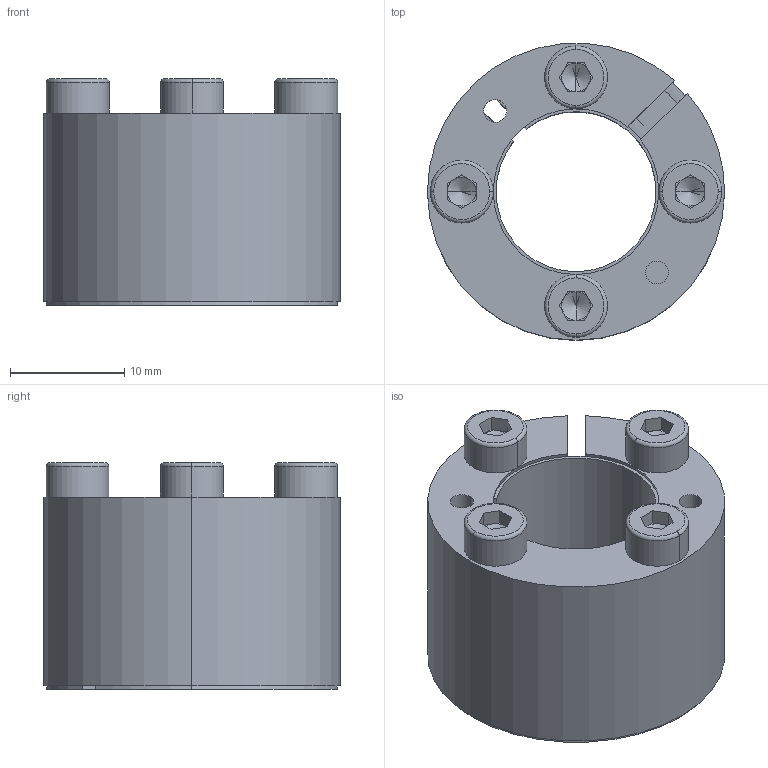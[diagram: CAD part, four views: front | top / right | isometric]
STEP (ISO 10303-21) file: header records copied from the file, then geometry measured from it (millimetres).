
FILE_DESCRIPTION (( 'STEP AP214' ), '1' );
FILE_NAME ('CONEX-K-14x26.step', '2013-04-06T13:20:30', ( 'Pc' ), ( '' ), 'SwSTEP 2.0', 'SolidWorks 2013', '' );
FILE_SCHEMA (( 'AUTOMOTIVE_DESIGN' ));
Length unit declared in the file: millimetre
Products named in the file (1): CONEX-K-14x26
Bounding box: 26 x 25.97 x 19.81 mm (x, y, z)
Volume: 5264.9 mm3; surface area: 6789.8 mm2
Topology: 6 solids, 6 shells, 162 faces, 378 edges, 228 vertices
Faces by surface type: plane 70, cylinder 48, cone 28, torus 16
Entity records: 6473 total; most frequent: DIRECTION 866, CARTESIAN_POINT 785, ORIENTED_EDGE 740, EDGE_CURVE 370, AXIS2_PLACEMENT_3D 341, VERTEX_POINT 228, EDGE_LOOP 190, VECTOR 184
